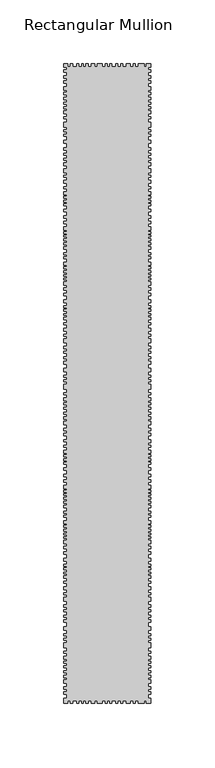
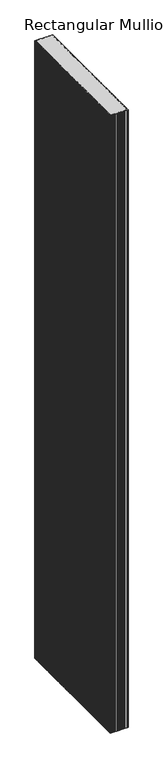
"""IFC4 building model written with IfcOpenShell, lengths in millimetres: member geometry, Rectangular Mullion : DucoSun Cubic Design louvre 500."""

from ifc_helpers import new_model, si_unit, frame, origin, place, context, project, spatial, polyline, outline, extrude, source, transform, mapped, element, save


def rectangular_mullion_f36710fc(model_context):
    return source(origin(), model_context, "Body", "SweptSolid", [
        extrude(outline(polyline([(0.0, 497.3782451), (-2.0, 497.3782451), (-2.0, 495.4241521), (0.0, 495.4241521), (0.0, 493.6532553), (-2.0, 493.6532553), (-2.0, 490.9460223), (0.0, 490.9460223), (0.0, 488.9105087), (-2.0, 488.9105087), (-2.0, 486.7121541), (0.0, 486.7121541), (0.0, 485.0023227), (-2.0, 485.0023227), (-2.0, 482.3561551), (0.0, 482.3561551), (0.0, 479.3843053), (-2.0, 479.3843053), (-2.0, 477.8917893), (0.0, 477.8917893), (0.0, 475.8425117), (-2.0, 475.8425117), (-2.0, 473.8680636), (0.0, 473.8680636), (0.0, 472.1582322), (-2.0, 472.1582322), (-2.0, 470.0820083), (0.0, 470.0820083), (0.0, 468.3111116), (-2.0, 468.3111116), (-2.0, 466.4995045), (0.0, 466.4995045), (0.0, 465.0713495), (-2.0, 465.0713495), (-2.0, 463.4577392), (0.0, 463.4577392), (0.0, 461.0328231), (-2.0, 461.0328231), (-2.0, 458.5725067), (0.0, 458.5725067), (0.0, 457.0325964), (-2.0, 457.0325964), (-2.0, 454.5014796), (0.0, 454.5014796), (0.0, 450.4127524), (-2.0, 450.4127524), (-2.0, 448.4126391), (0.0, 448.4126391), (0.0, 446.8373286), (-2.0, 446.8373286), (-2.0, 444.9965163), (0.0, 444.9965163), (0.0, 443.3504053), (-2.0, 443.3504053), (-2.0, 440.3767855), (0.0, 440.3767855), (0.0, 437.9545244), (-2.0, 437.9545244), (-2.0, 434.5552168), (0.0, 434.5552168), (0.0, 432.5197032), (-2.0, 432.5197032), (-2.0, 430.239928), (0.0, 430.239928), (0.0, 428.6929377), (-2.0, 428.6929377), (-2.0, 426.4335177), (0.0, 426.4335177), (0.0, 424.5608452), (-2.0, 424.5608452), (-2.0, 422.6271073), (0.0, 422.6271073), (0.0, 420.5508835), (-2.0, 420.5508835), (-2.0, 418.0064916), (0.0, 418.0064916), (0.0, 414.9328661), (-2.0, 414.9328661), (-2.0, 412.9177077), (0.0, 412.9177077), (0.0, 411.4114277), (-2.0, 411.4114277), (-2.0, 408.9688114), (0.0, 408.9688114), (0.0, 406.7118273), (-2.0, 406.7118273), (-2.0, 403.8852623), (0.0, 403.8852623), (0.0, 402.4316003), (-2.0, 402.4316003), (-2.0, 399.9011516), (0.0, 399.9011516), (0.0, 397.8552569), (-2.0, 397.8552569), (-2.0, 396.6169522), (0.0, 396.6169522), (0.0, 395.0825312), (-2.0, 395.0825312), (-2.0, 393.4673512), (0.0, 393.4673512), (0.0, 392.0675286), (-2.0, 392.0675286), (-2.0, 390.5869469), (0.0, 390.5869469), (0.0, 389.1602046), (-2.0, 389.1602046), (-2.0, 386.3310055), (0.0, 386.3310055), (0.0, 384.2608252), (-2.0, 384.2608252), (-2.0, 381.1919832), (0.0, 381.1919832), (0.0, 379.2537672), (-2.0, 379.2537672), (-2.0, 376.9360418), (0.0, 376.9360418), (0.0, 375.0004598), (-2.0, 375.0004598), (-2.0, 372.9007258), (0.0, 372.9007258), (0.0, 370.1010805), (-2.0, 370.1010805), (-2.0, 368.8089365), (0.0, 368.8089365), (0.0, 367.3014351), (-2.0, 367.3014351), (-2.0, 366.0362108), (0.0, 366.0362108), (0.0, 365.0401831), (-2.0, 365.0401831), (-2.0, 363.2096458), (0.0, 363.2096458), (0.0, 361.6483051), (-2.0, 361.6483051), (-2.0, 360.1408038), (0.0, 360.1408038), (0.0, 358.6063828), (-2.0, 358.6063828), (-2.0, 357.0719618), (0.0, 357.0719618), (0.0, 355.0799064), (-2.0, 355.0799064), (-2.0, 352.3762692), (0.0, 352.3762692), (0.0, 350.8903036), (-2.0, 350.8903036), (-2.0, 349.1257194), (0.0, 349.1257194), (0.0, 347.6087962), (-2.0, 347.6087962), (-2.0, 344.8535683), (0.0, 344.8535683), (0.0, 342.7484504), (-2.0, 342.7484504), (-2.0, 341.4172729), (0.0, 341.4172729), (0.0, 339.9622649), (-2.0, 339.9622649), (-2.0, 338.3524688), (0.0, 338.3524688), (0.0, 336.8355456), (-2.0, 336.8355456), (-2.0, 335.1947919), (0.0, 335.1947919), (0.0, 333.9255296), (-2.0, 333.9255296), (-2.0, 332.5014792), (0.0, 332.5014792), (0.0, 331.1083865), (-2.0, 331.1083865), (-2.0, 329.6843361), (0.0, 329.6843361), (0.0, 327.0529387), (-2.0, 327.0529387), (-2.0, 324.9787784), (0.0, 324.9787784), (0.0, 323.0284485), (-2.0, 323.0284485), (-2.0, 320.7995001), (0.0, 320.7995001), (0.0, 318.8182126), (-2.0, 318.8182126), (-2.0, 315.6914933), (0.0, 315.6914933), (0.0, 313.4935025), (-2.0, 313.4935025), (-2.0, 310.954978), (0.0, 310.954978), (0.0, 309.4070971), (-2.0, 309.4070971), (-2.0, 308.1378348), (0.0, 308.1378348), (0.0, 306.4970812), (-2.0, 306.4970812), (-2.0, 304.8253698), (0.0, 304.8253698), (0.0, 303.3394042), (-2.0, 303.3394042), (-2.0, 302.0391843), (0.0, 302.0391843), (0.0, 300.0578969), (-2.0, 300.0578969), (-2.0, 297.6741604), (0.0, 297.6741604), (0.0, 296.0953219), (-2.0, 296.0953219), (-2.0, 293.3091364), (0.0, 293.3091364), (0.0, 291.0182728), (-2.0, 291.0182728), (-2.0, 288.572621), (0.0, 288.572621), (0.0, 287.1485707), (-2.0, 287.1485707), (-2.0, 285.0124951), (0.0, 285.0124951), (0.0, 282.1643944), (-2.0, 282.1643944), (-2.0, 279.3782089), (0.0, 279.3782089), (0.0, 277.427879), (-2.0, 277.427879), (-2.0, 275.4156339), (0.0, 275.4156339), (0.0, 273.6510498), (-2.0, 273.6510498), (-2.0, 271.1744404), (0.0, 271.1744404), (0.0, 269.6884748), (-2.0, 269.6884748), (-2.0, 267.5523993), (0.0, 267.5523993), (0.0, 265.4163237), (-2.0, 265.4163237), (-2.0, 262.1967316), (0.0, 262.1967316), (0.0, 259.5343765), (-2.0, 259.5343765), (-2.0, 256.7791486), (0.0, 256.7791486), (0.0, 255.0764797), (-2.0, 255.0764797), (-2.0, 252.9404041), (0.0, 252.9404041), (0.0, 251.6092266), (-2.0, 251.6092266), (-2.0, 249.5660239), (0.0, 249.5660239), (0.0, 245.512038), (-2.0, 245.512038), (-2.0, 243.0030092), (0.0, 243.0030092), (0.0, 241.3312979), (-2.0, 241.3312979), (-2.0, 239.0404342), (0.0, 239.0404342), (0.0, 236.5638249), (-2.0, 236.5638249), (-2.0, 235.015944), (0.0, 235.015944), (0.0, 233.5609361), (-2.0, 233.5609361), (-2.0, 231.5796486), (0.0, 231.5796486), (0.0, 230.0627254), (-2.0, 230.0627254), (-2.0, 227.8337769), (0.0, 227.8337769), (0.0, 226.1620656), (-2.0, 226.1620656), (-2.0, 224.0259901), (0.0, 224.0259901), (0.0, 222.0756602), (-2.0, 222.0756602), (-2.0, 220.6516099), (0.0, 220.6516099), (0.0, 217.7415939), (-2.0, 217.7415939), (-2.0, 215.2030693), (0.0, 215.2030693), (0.0, 213.1908242), (-2.0, 213.1908242), (-2.0, 211.2404944), (0.0, 211.2404944), (0.0, 209.1353764), (-2.0, 209.1353764), (-2.0, 206.2563181), (0.0, 206.2563181), (0.0, 203.7186411), (-2.0, 203.7186411), (-2.0, 201.7889994), (0.0, 201.7889994), (0.0, 200.3353374), (-2.0, 200.3353374), (-2.0, 197.8048887), (0.0, 197.8048887), (0.0, 195.758994), (-2.0, 195.758994), (-2.0, 194.5206893), (0.0, 194.5206893), (0.0, 192.9862683), (-2.0, 192.9862683), (-2.0, 191.3710883), (0.0, 191.3710883), (0.0, 189.9712657), (-2.0, 189.9712657), (-2.0, 188.490684), (0.0, 188.490684), (0.0, 187.0639417), (-2.0, 187.0639417), (-2.0, 184.2347426), (0.0, 184.2347426), (0.0, 182.1645623), (-2.0, 182.1645623), (-2.0, 179.0957203), (0.0, 179.0957203), (0.0, 177.1575043), (-2.0, 177.1575043), (-2.0, 174.8397789), (0.0, 174.8397789), (0.0, 172.9041969), (-2.0, 172.9041969), (-2.0, 170.8044629), (0.0, 170.8044629), (0.0, 168.0048176), (-2.0, 168.0048176), (-2.0, 166.7126736), (0.0, 166.7126736), (0.0, 165.2051722), (-2.0, 165.2051722), (-2.0, 163.9399479), (0.0, 163.9399479), (0.0, 162.9439202), (-2.0, 162.9439202), (-2.0, 161.1133829), (0.0, 161.1133829), (0.0, 159.5520422), (-2.0, 159.5520422), (-2.0, 158.0445409), (0.0, 158.0445409), (0.0, 156.5101199), (-2.0, 156.5101199), (-2.0, 154.9756989), (0.0, 154.9756989), (0.0, 152.9836435), (-2.0, 152.9836435), (-2.0, 150.2800063), (0.0, 150.2800063), (0.0, 148.7940407), (-2.0, 148.7940407), (-2.0, 147.0294565), (0.0, 147.0294565), (0.0, 145.5125333), (-2.0, 145.5125333), (-2.0, 142.7573054), (0.0, 142.7573054), (0.0, 140.6521875), (-2.0, 140.6521875), (-2.0, 139.32101), (0.0, 139.32101), (0.0, 137.866002), (-2.0, 137.866002), (-2.0, 136.2562059), (0.0, 136.2562059), (0.0, 134.7392827), (-2.0, 134.7392827), (-2.0, 133.098529), (0.0, 133.098529), (0.0, 131.8292667), (-2.0, 131.8292667), (-2.0, 130.4052163), (0.0, 130.4052163), (0.0, 129.0121236), (-2.0, 129.0121236), (-2.0, 127.5880732), (0.0, 127.5880732), (0.0, 124.9566758), (-2.0, 124.9566758), (-2.0, 122.8825155), (0.0, 122.8825155), (0.0, 120.9321856), (-2.0, 120.9321856), (-2.0, 118.7032372), (0.0, 118.7032372), (0.0, 116.7219497), (-2.0, 116.7219497), (-2.0, 113.5952304), (0.0, 113.5952304), (0.0, 111.3972396), (-2.0, 111.3972396), (-2.0, 108.8587151), (0.0, 108.8587151), (0.0, 107.3108342), (-2.0, 107.3108342), (-2.0, 106.0415719), (0.0, 106.0415719), (0.0, 104.4008183), (-2.0, 104.4008183), (-2.0, 102.7291069), (0.0, 102.7291069), (0.0, 101.2431413), (-2.0, 101.2431413), (-2.0, 99.9429214), (0.0, 99.9429214), (0.0, 97.961634), (-2.0, 97.961634), (-2.0, 95.5778975), (0.0, 95.5778975), (0.0, 93.999059), (-2.0, 93.999059), (-2.0, 91.2128735), (0.0, 91.2128735), (0.0, 88.9220099), (-2.0, 88.9220099), (-2.0, 86.4763581), (0.0, 86.4763581), (0.0, 85.0523078), (-2.0, 85.0523078), (-2.0, 82.9162322), (0.0, 82.9162322), (0.0, 80.0681315), (-2.0, 80.0681315), (-2.0, 77.281946), (0.0, 77.281946), (0.0, 75.3316161), (-2.0, 75.3316161), (-2.0, 73.319371), (0.0, 73.319371), (0.0, 71.5547869), (-2.0, 71.5547869), (-2.0, 69.0781775), (0.0, 69.0781775), (0.0, 67.5922119), (-2.0, 67.5922119), (-2.0, 65.4561364), (0.0, 65.4561364), (0.0, 63.3200608), (-2.0, 63.3200608), (-2.0, 60.1004687), (0.0, 60.1004687), (0.0, 57.4381136), (-2.0, 57.4381136), (-2.0, 54.6828857), (0.0, 54.6828857), (0.0, 52.9802168), (-2.0, 52.9802168), (-2.0, 50.8441412), (0.0, 50.8441412), (0.0, 49.5129637), (-2.0, 49.5129637), (-2.0, 47.469761), (0.0, 47.469761), (0.0, 43.4157751), (-2.0, 43.4157751), (-2.0, 40.9067463), (0.0, 40.9067463), (0.0, 39.235035), (-2.0, 39.235035), (-2.0, 36.9441713), (0.0, 36.9441713), (0.0, 34.467562), (-2.0, 34.467562), (-2.0, 32.9196811), (0.0, 32.9196811), (0.0, 31.4646731), (-2.0, 31.4646731), (-2.0, 29.4833857), (0.0, 29.4833857), (0.0, 27.9664625), (-2.0, 27.9664625), (-2.0, 25.737514), (0.0, 25.737514), (0.0, 24.0658027), (-2.0, 24.0658027), (-2.0, 21.9297272), (0.0, 21.9297272), (0.0, 19.9793973), (-2.0, 19.9793973), (-2.0, 18.555347), (0.0, 18.555347), (0.0, 15.645331), (-2.0, 15.645331), (-2.0, 13.1068064), (0.0, 13.1068064), (0.0, 11.0945613), (-2.0, 11.0945613), (-2.0, 9.1442315), (0.0, 9.1442315), (0.0, 7.0391135), (-2.0, 7.0391135), (-2.0, 4.0), (0.0, 4.0), (0.0, 0.0), (-3.5455586, 0.0), (-3.5455586, 2.0), (-5.372058, 2.0), (-5.372058, 0.0), (-10.0157006, 0.0), (-10.0157006, 2.0), (-12.1827337, 2.0), (-12.1827337, 0.0), (-13.6996569, 0.0), (-13.6996569, 2.0), (-16.0524358, 2.0), (-16.0524358, 0.0), (-19.1172399, 0.0), (-19.1172399, 2.0), (-21.9034254, 2.0), (-21.9034254, 0.0), (-23.6060943, 0.0), (-23.6060943, 2.0), (-25.9898308, 2.0), (-25.9898308, 0.0), (-27.4757964, 0.0), (-27.4757964, 2.0), (-30.5115322, 2.0), (-30.5115322, 0.0), (-32.2905711, 0.0), (-32.2905711, 2.0), (-34.0, 2.0), (-34.0, 0.0), (-35.8486488, 0.0), (-35.8486488, 2.0), (-38.2128978, 2.0), (-38.2128978, 0.0), (-41.9816511, 0.0), (-41.9816511, 2.0), (-44.0415908, 2.0), (-44.0415908, 0.0), (-46.7335575, 0.0), (-46.7335575, 2.0), (-49.0041729, 2.0), (-49.0041729, 0.0), (-50.8768453, 0.0), (-50.8768453, 2.0), (-52.9367851, 2.0), (-52.9367851, 0.0), (-54.2710642, 0.0), (-54.2710642, 2.0), (-56.3075955, 2.0), (-56.3075955, 0.0), (-57.8993671, 0.0), (-57.8993671, 2.0), (-60.9658683, 2.0), (-60.9658683, 0.0), (-62.9321744, 0.0), (-62.9321744, 2.0), (-64.8750721, 2.0), (-64.8750721, 0.0), (-68.0, 0.0), (-68.0, 4.0), (-66.0, 4.0), (-66.0, 7.0391135), (-68.0, 7.0391135), (-68.0, 9.1442315), (-66.0, 9.1442315), (-66.0, 11.0945613), (-68.0, 11.0945613), (-68.0, 13.1068064), (-66.0, 13.1068064), (-66.0, 15.645331), (-68.0, 15.645331), (-68.0, 18.555347), (-66.0, 18.555347), (-66.0, 19.9793973), (-68.0, 19.9793973), (-68.0, 21.9297272), (-66.0, 21.9297272), (-66.0, 24.0658027), (-68.0, 24.0658027), (-68.0, 25.737514), (-66.0, 25.737514), (-66.0, 27.9664625), (-68.0, 27.9664625), (-68.0, 29.4833857), (-66.0, 29.4833857), (-66.0, 31.4646731), (-68.0, 31.4646731), (-68.0, 32.9196811), (-66.0, 32.9196811), (-66.0, 34.467562), (-68.0, 34.467562), (-68.0, 36.9441713), (-66.0, 36.9441713), (-66.0, 39.235035), (-68.0, 39.235035), (-68.0, 40.9067463), (-66.0, 40.9067463), (-66.0, 43.4157751), (-68.0, 43.4157751), (-68.0, 47.469761), (-66.0, 47.469761), (-66.0, 49.5129637), (-68.0, 49.5129637), (-68.0, 50.8441412), (-66.0, 50.8441412), (-66.0, 52.9802168), (-68.0, 52.9802168), (-68.0, 54.6828857), (-66.0, 54.6828857), (-66.0, 57.4381136), (-68.0, 57.4381136), (-68.0, 60.1004687), (-66.0, 60.1004687), (-66.0, 63.3200608), (-68.0, 63.3200608), (-68.0, 65.4561364), (-66.0, 65.4561364), (-66.0, 67.5922119), (-68.0, 67.5922119), (-68.0, 69.0781775), (-66.0, 69.0781775), (-66.0, 71.5547869), (-68.0, 71.5547869), (-68.0, 73.319371), (-66.0, 73.319371), (-66.0, 75.3316161), (-68.0, 75.3316161), (-68.0, 77.281946), (-66.0, 77.281946), (-66.0, 80.0681315), (-68.0, 80.0681315), (-68.0, 82.9162322), (-66.0, 82.9162322), (-66.0, 85.0523078), (-68.0, 85.0523078), (-68.0, 86.4763581), (-66.0, 86.4763581), (-66.0, 88.9220099), (-68.0, 88.9220099), (-68.0, 91.2128735), (-66.0, 91.2128735), (-66.0, 93.999059), (-68.0, 93.999059), (-68.0, 95.5778975), (-66.0, 95.5778975), (-66.0, 97.961634), (-68.0, 97.961634), (-68.0, 99.9429214), (-66.0, 99.9429214), (-66.0, 101.2431413), (-68.0, 101.2431413), (-68.0, 102.7291069), (-66.0, 102.7291069), (-66.0, 104.4008183), (-68.0, 104.4008183), (-68.0, 106.0415719), (-66.0, 106.0415719), (-66.0, 107.3108342), (-68.0, 107.3108342), (-68.0, 108.8587151), (-66.0, 108.8587151), (-66.0, 111.3972396), (-68.0, 111.3972396), (-68.0, 113.5952304), (-66.0, 113.5952304), (-66.0, 116.7219497), (-68.0, 116.7219497), (-68.0, 118.7032372), (-66.0, 118.7032372), (-66.0, 120.9321856), (-68.0, 120.9321856), (-68.0, 122.8825155), (-66.0, 122.8825155), (-66.0, 124.9566758), (-68.0, 124.9566758), (-68.0, 127.5880732), (-66.0, 127.5880732), (-66.0, 129.0121236), (-68.0, 129.0121236), (-68.0, 130.4052163), (-66.0, 130.4052163), (-66.0, 131.8292667), (-68.0, 131.8292667), (-68.0, 133.098529), (-66.0, 133.098529), (-66.0, 134.7392827), (-68.0, 134.7392827), (-68.0, 136.2562059), (-66.0, 136.2562059), (-66.0, 137.866002), (-68.0, 137.866002), (-68.0, 139.32101), (-66.0, 139.32101), (-66.0, 140.6521875), (-68.0, 140.6521875), (-68.0, 142.7573054), (-66.0, 142.7573054), (-66.0, 145.5125333), (-68.0, 145.5125333), (-68.0, 147.0294565), (-66.0, 147.0294565), (-66.0, 148.7940407), (-68.0, 148.7940407), (-68.0, 150.2800063), (-66.0, 150.2800063), (-66.0, 152.9836435), (-68.0, 152.9836435), (-68.0, 154.9756989), (-66.0, 154.9756989), (-66.0, 156.5101199), (-68.0, 156.5101199), (-68.0, 158.0445409), (-66.0, 158.0445409), (-66.0, 159.5520422), (-68.0, 159.5520422), (-68.0, 161.1133829), (-66.0, 161.1133829), (-66.0, 162.9439202), (-68.0, 162.9439202), (-68.0, 163.9399479), (-66.0, 163.9399479), (-66.0, 165.2051722), (-68.0, 165.2051722), (-68.0, 166.7126736), (-66.0, 166.7126736), (-66.0, 168.0048176), (-68.0, 168.0048176), (-68.0, 170.8044629), (-66.0, 170.8044629), (-66.0, 172.9041969), (-68.0, 172.9041969), (-68.0, 174.8397789), (-66.0, 174.8397789), (-66.0, 177.1575043), (-68.0, 177.1575043), (-68.0, 179.0957203), (-66.0, 179.0957203), (-66.0, 182.1645623), (-68.0, 182.1645623), (-68.0, 184.2347426), (-66.0, 184.2347426), (-66.0, 187.0639417), (-68.0, 187.0639417), (-68.0, 188.490684), (-66.0, 188.490684), (-66.0, 189.9712657), (-68.0, 189.9712657), (-68.0, 191.3710883), (-66.0, 191.3710883), (-66.0, 192.9862683), (-68.0, 192.9862683), (-68.0, 194.5206893), (-66.0, 194.5206893), (-66.0, 195.758994), (-68.0, 195.758994), (-68.0, 197.8048887), (-66.0, 197.8048887), (-66.0, 200.3353374), (-68.0, 200.3353374), (-68.0, 201.7889994), (-66.0, 201.7889994), (-66.0, 204.6155644), (-68.0, 204.6155644), (-68.0, 206.2563181), (-66.0, 206.2563181), (-66.0, 209.1353764), (-68.0, 209.1353764), (-68.0, 211.2404944), (-66.0, 211.2404944), (-66.0, 213.1908242), (-68.0, 213.1908242), (-68.0, 215.2030693), (-66.0, 215.2030693), (-66.0, 217.7415939), (-68.0, 217.7415939), (-68.0, 220.6516099), (-66.0, 220.6516099), (-66.0, 222.0756602), (-68.0, 222.0756602), (-68.0, 224.0259901), (-66.0, 224.0259901), (-66.0, 226.1620656), (-68.0, 226.1620656), (-68.0, 227.8337769), (-66.0, 227.8337769), (-66.0, 230.0627254), (-68.0, 230.0627254), (-68.0, 231.5796486), (-66.0, 231.5796486), (-66.0, 233.5609361), (-68.0, 233.5609361), (-68.0, 235.015944), (-66.0, 235.015944), (-66.0, 236.5638249), (-68.0, 236.5638249), (-68.0, 239.0404342), (-66.0, 239.0404342), (-66.0, 241.3312979), (-68.0, 241.3312979), (-68.0, 243.0030092), (-66.0, 243.0030092), (-66.0, 245.512038), (-68.0, 245.512038), (-68.0, 249.5660239), (-66.0, 249.5660239), (-66.0, 251.6092266), (-68.0, 251.6092266), (-68.0, 252.9404041), (-66.0, 252.9404041), (-66.0, 255.0764797), (-68.0, 255.0764797), (-68.0, 256.7791486), (-66.0, 256.7791486), (-66.0, 259.5343765), (-68.0, 259.5343765), (-68.0, 262.1967316), (-66.0, 262.1967316), (-66.0, 265.4163237), (-68.0, 265.4163237), (-68.0, 267.5523993), (-66.0, 267.5523993), (-66.0, 269.6884748), (-68.0, 269.6884748), (-68.0, 271.1744404), (-66.0, 271.1744404), (-66.0, 273.6510498), (-68.0, 273.6510498), (-68.0, 275.4156339), (-66.0, 275.4156339), (-66.0, 277.427879), (-68.0, 277.427879), (-68.0, 279.3782089), (-66.0, 279.3782089), (-66.0, 282.1643944), (-68.0, 282.1643944), (-68.0, 285.0124951), (-66.0, 285.0124951), (-66.0, 287.1485707), (-68.0, 287.1485707), (-68.0, 288.572621), (-66.0, 288.572621), (-66.0, 291.0182728), (-68.0, 291.0182728), (-68.0, 293.3091364), (-66.0, 293.3091364), (-66.0, 296.0953219), (-68.0, 296.0953219), (-68.0, 297.6741604), (-66.0, 297.6741604), (-66.0, 300.0578969), (-68.0, 300.0578969), (-68.0, 302.0391843), (-66.0, 302.0391843), (-66.0, 303.3394042), (-68.0, 303.3394042), (-68.0, 304.8253698), (-66.0, 304.8253698), (-66.0, 306.4970812), (-68.0, 306.4970812), (-68.0, 308.1378348), (-66.0, 308.1378348), (-66.0, 309.4070971), (-68.0, 309.4070971), (-68.0, 310.954978), (-66.0, 310.954978), (-66.0, 313.4935025), (-68.0, 313.4935025), (-68.0, 315.6914933), (-66.0, 315.6914933), (-66.0, 318.8182126), (-68.0, 318.8182126), (-68.0, 320.7995001), (-66.0, 320.7995001), (-66.0, 323.0284485), (-68.0, 323.0284485), (-68.0, 324.9787784), (-66.0, 324.9787784), (-66.0, 327.0529387), (-68.0, 327.0529387), (-68.0, 329.6843361), (-66.0, 329.6843361), (-66.0, 331.1083865), (-68.0, 331.1083865), (-68.0, 332.5014792), (-66.0, 332.5014792), (-66.0, 333.9255296), (-68.0, 333.9255296), (-68.0, 335.1947919), (-66.0, 335.1947919), (-66.0, 336.8355456), (-68.0, 336.8355456), (-68.0, 338.3524688), (-66.0, 338.3524688), (-66.0, 339.9622649), (-68.0, 339.9622649), (-68.0, 341.4172729), (-66.0, 341.4172729), (-66.0, 342.7484504), (-68.0, 342.7484504), (-68.0, 344.8535683), (-66.0, 344.8535683), (-66.0, 347.6087962), (-68.0, 347.6087962), (-68.0, 349.1257194), (-66.0, 349.1257194), (-66.0, 350.8903036), (-68.0, 350.8903036), (-68.0, 352.3762692), (-66.0, 352.3762692), (-66.0, 355.0799064), (-68.0, 355.0799064), (-68.0, 357.0719618), (-66.0, 357.0719618), (-66.0, 358.6063828), (-68.0, 358.6063828), (-68.0, 360.1408038), (-66.0, 360.1408038), (-66.0, 361.6483051), (-68.0, 361.6483051), (-68.0, 363.2096458), (-66.0, 363.2096458), (-66.0, 365.0401831), (-68.0, 365.0401831), (-68.0, 366.0362108), (-66.0, 366.0362108), (-66.0, 367.3014351), (-68.0, 367.3014351), (-68.0, 368.8089365), (-66.0, 368.8089365), (-66.0, 370.1010805), (-68.0, 370.1010805), (-68.0, 372.9007258), (-66.0, 372.9007258), (-66.0, 375.0004598), (-68.0, 375.0004598), (-68.0, 376.9360418), (-66.0, 376.9360418), (-66.0, 379.2537672), (-68.0, 379.2537672), (-68.0, 381.1919832), (-66.0, 381.1919832), (-66.0, 384.2608252), (-68.0, 384.2608252), (-68.0, 386.3310055), (-66.0, 386.3310055), (-66.0, 389.1602046), (-68.0, 389.1602046), (-68.0, 390.5869469), (-66.0, 390.5869469), (-66.0, 392.0675286), (-68.0, 392.0675286), (-68.0, 393.4673512), (-66.0, 393.4673512), (-66.0, 395.0825312), (-68.0, 395.0825312), (-68.0, 396.6169522), (-66.0, 396.6169522), (-66.0, 397.8552569), (-68.0, 397.8552569), (-68.0, 399.9011516), (-66.0, 399.9011516), (-66.0, 402.4316003), (-68.0, 402.4316003), (-68.0, 403.8852623), (-66.0, 403.8852623), (-66.0, 406.7118273), (-68.0, 406.7118273), (-68.0, 408.9688114), (-66.0, 408.9688114), (-66.0, 411.4114277), (-68.0, 411.4114277), (-68.0, 412.9177077), (-66.0, 412.9177077), (-66.0, 414.9328661), (-68.0, 414.9328661), (-68.0, 418.0064916), (-66.0, 418.0064916), (-66.0, 420.5508835), (-68.0, 420.5508835), (-68.0, 422.6271073), (-66.0, 422.6271073), (-66.0, 424.5608452), (-68.0, 424.5608452), (-68.0, 426.4335177), (-66.0, 426.4335177), (-66.0, 428.6929377), (-68.0, 428.6929377), (-68.0, 430.239928), (-66.0, 430.239928), (-66.0, 432.5197032), (-68.0, 432.5197032), (-68.0, 434.5552168), (-66.0, 434.5552168), (-66.0, 437.9545244), (-68.0, 437.9545244), (-68.0, 440.3767855), (-66.0, 440.3767855), (-66.0, 443.3504053), (-68.0, 443.3504053), (-68.0, 444.9965163), (-66.0, 444.9965163), (-66.0, 446.8373286), (-68.0, 446.8373286), (-68.0, 448.4126391), (-66.0, 448.4126391), (-66.0, 450.4127524), (-68.0, 450.4127524), (-68.0, 454.5014796), (-66.0, 454.5014796), (-66.0, 457.0325964), (-68.0, 457.0325964), (-68.0, 458.5725067), (-66.0, 458.5725067), (-66.0, 461.0328231), (-68.0, 461.0328231), (-68.0, 463.4577392), (-66.0, 463.4577392), (-66.0, 465.0713495), (-68.0, 465.0713495), (-68.0, 466.4995045), (-66.0, 466.4995045), (-66.0, 468.3111116), (-68.0, 468.3111116), (-68.0, 470.0820083), (-66.0, 470.0820083), (-66.0, 472.1582322), (-68.0, 472.1582322), (-68.0, 473.8680636), (-66.0, 473.8680636), (-66.0, 475.8425117), (-68.0, 475.8425117), (-68.0, 477.8917893), (-66.0, 477.8917893), (-66.0, 479.3843053), (-68.0, 479.3843053), (-68.0, 482.3561551), (-66.0, 482.3561551), (-66.0, 485.0023227), (-68.0, 485.0023227), (-68.0, 486.7121541), (-66.0, 486.7121541), (-66.0, 488.9105087), (-68.0, 488.9105087), (-68.0, 490.9460223), (-66.0, 490.9460223), (-66.0, 493.6532553), (-68.0, 493.6532553), (-68.0, 495.4241521), (-66.0, 495.4241521), (-66.0, 497.3782451), (-68.0, 497.3782451), (-68.0, 500.0), (-64.8750721, 500.0), (-64.8750721, 498.0), (-62.9321744, 498.0), (-62.9321744, 500.0), (-60.9658683, 500.0), (-60.9658683, 498.0), (-57.8993671, 498.0), (-57.8993671, 500.0), (-56.3075955, 500.0), (-56.3075955, 498.0), (-54.2710642, 498.0), (-54.2710642, 500.0), (-52.9367851, 500.0), (-52.9367851, 498.0), (-50.8768453, 498.0), (-50.8768453, 500.0), (-49.0041729, 500.0), (-49.0041729, 498.0), (-46.7335575, 498.0), (-46.7335575, 500.0), (-44.0415908, 500.0), (-44.0415908, 498.0), (-41.9816511, 498.0), (-41.9816511, 500.0), (-38.2128978, 500.0), (-38.2128978, 498.0), (-35.8486488, 498.0), (-35.8486488, 500.0), (-34.0, 500.0), (-34.0, 498.0), (-32.2905711, 498.0), (-32.2905711, 500.0), (-30.5115322, 500.0), (-30.5115322, 498.0), (-27.4757964, 498.0), (-27.4757964, 500.0), (-25.9898308, 500.0), (-25.9898308, 498.0), (-23.6060943, 498.0), (-23.6060943, 500.0), (-21.9034254, 500.0), (-21.9034254, 498.0), (-19.1172399, 498.0), (-19.1172399, 500.0), (-16.0524358, 500.0), (-16.0524358, 498.0), (-13.6996569, 498.0), (-13.6996569, 500.0), (-12.1827337, 500.0), (-12.1827337, 498.0), (-10.0157006, 498.0), (-10.0157006, 500.0), (-5.372058, 500.0), (-5.372058, 498.0), (-3.5455586, 498.0), (-3.5455586, 500.0), (0.0, 500.0), (0.0, 497.3782451)])), frame((0.0, 0.0, -2500.0), z_axis=(0.0, 0.0, 1.0), x_axis=(1.0, 0.0, 0.0)), (0.0, 0.0, 1.0), 2500.0),
    ])


if __name__ == "__main__":
    model = new_model("IFC4")
    model_context = context("Model", 3, world=origin())
    ifc_project = project(units=[si_unit("LENGTHUNIT", "METRE", prefix="MILLI")], contexts=[model_context])
    site = spatial("IfcSite", under=ifc_project)
    building = spatial("IfcBuilding", under=site)
    placement = place(None, origin())
    rectangular_mullion_shape = rectangular_mullion_f36710fc(model_context)
    element("IfcMember", 1, ObjectType="Rectangular Mullion : DucoSun Cubic Design louvre 500", at=placement, inside=building, context=model_context, shape_type="MappedRepresentation", body=[
        mapped(rectangular_mullion_shape, transform((0.0, 0.0, 0.0), x_axis=(1.0, 0.0, 0.0), y_axis=(0.0, 1.0, 0.0), z_axis=(0.0, 0.0, 1.0))),
    ])
    save(model, "model.ifc")
